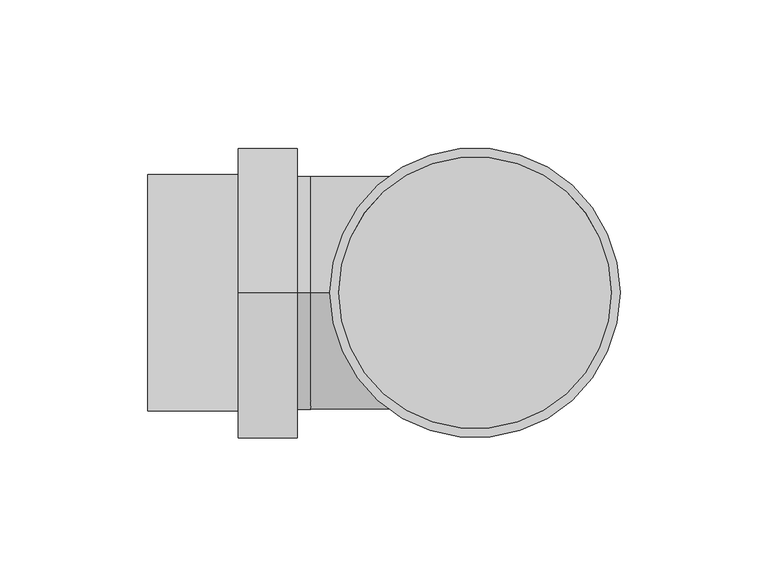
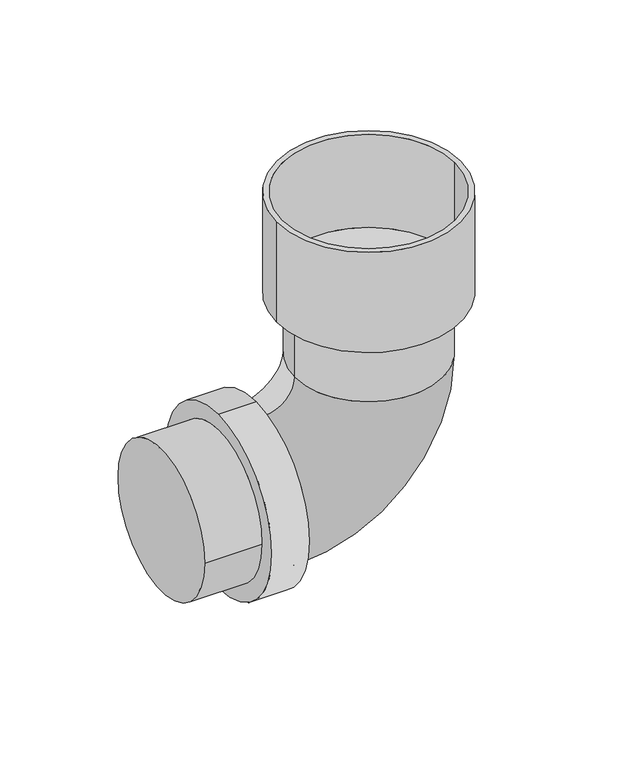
"""IFC4 building model written with IfcOpenShell, lengths in millimetres: duct fitting geometry, NLRS_57_DUF_UN_connection piece round bend_M&G : ø75 ø92."""

from ifc_helpers import new_model, si_unit, point, frame, origin, place, context, project, spatial, polyline, circle_curve, ellipse_curve, trimmed, source, transform, mapped, element, save
from ifc_brep_helpers import plane_surface, cylinder_surface, revolved_surface, advanced_brep


def duct_fitting_394e68cb(model_context):
    return source(origin(), model_context, "Body", "AdvancedBrep", [
        advanced_brep(
        [(-110.5, 40.0, 0.0), (-110.5, -40.0, 0.0), (49.0, 0.0, 90.0), (-49.0, 0.0, 90.0), (-39.5, 0.0, 90.0), (39.5, 0.0, 90.0), (49.0, 0.0, 146.5), (-49.0, 0.0, 146.5), (46.0, 0.0, 146.5), (-46.0, 0.0, 146.5), (-55.5218613, 0.0, 39.5), (-55.5218613, 0.0, -39.5), (39.5, 0.0, 55.5218613), (-39.5, 0.0, 55.5218613), (-80.0, -40.0, 0.0), (-80.0, 40.0, 0.0), (46.0, 0.0, 94.0), (-46.0, 0.0, 94.0), (-60.0, 0.0, 49.0), (-60.0, 0.0, -49.0), (-60.0, 0.0, -39.5), (-60.0, 0.0, 39.5), (-80.0, 0.0, 49.0), (-80.0, 0.0, -49.0)],
        [
            (0, 1, circle_curve(frame((-110.5, 0.0, 0.0), z_axis=(-1.0, 0.0, 0.0), x_axis=(0.0, -1.0, 0.0)), 40.0)),
            (1, 0, circle_curve(frame((-110.5, 0.0, 0.0), z_axis=(-1.0, 0.0, 0.0), x_axis=(0.0, -1.0, 0.0)), 40.0)),
            (2, 3, circle_curve(frame((0.0, 0.0, 90.0), z_axis=(0.0, 0.0, -1.0), x_axis=(-1.0, 0.0, 0.0)), 49.0)),
            (3, 2, circle_curve(frame((0.0, 0.0, 90.0), z_axis=(0.0, 0.0, -1.0), x_axis=(-1.0, 0.0, 0.0)), 49.0)),
            (4, 5, circle_curve(frame((0.0, 0.0, 90.0), z_axis=(0.0, 0.0, 1.0), x_axis=(-1.0, 0.0, 0.0)), 39.5)),
            (5, 4, circle_curve(frame((0.0, 0.0, 90.0), z_axis=(0.0, 0.0, 1.0), x_axis=(-1.0, 0.0, 0.0)), 39.5)),
            (6, 7, circle_curve(frame((0.0, 0.0, 146.5), z_axis=(0.0, 0.0, 1.0), x_axis=(-1.0, 0.0, 0.0)), 49.0)),
            (7, 6, circle_curve(frame((0.0, 0.0, 146.5), z_axis=(0.0, 0.0, 1.0), x_axis=(-1.0, 0.0, 0.0)), 49.0)),
            (8, 9, circle_curve(frame((0.0, 0.0, 146.5), z_axis=(0.0, 0.0, -1.0), x_axis=(-1.0, 0.0, 0.0)), 46.0)),
            (9, 8, circle_curve(frame((0.0, 0.0, 146.5), z_axis=(0.0, 0.0, -1.0), x_axis=(-1.0, 0.0, 0.0)), 46.0)),
            (10, 11, circle_curve(frame((-55.5218613, 0.0, 0.0), z_axis=(1.0, 0.0, 0.0), x_axis=(0.0, 0.0, 1.0)), 39.5)),
            (11, 12, circle_curve(frame((-55.5218613, 0.0, 55.5218613), z_axis=(0.0, -1.0, 0.0), x_axis=(0.0, 0.0, -1.0)), 95.0218613)),
            (12, 13, circle_curve(frame((0.0, 0.0, 55.5218613), z_axis=(0.0, 0.0, -1.0), x_axis=(-1.0, 0.0, 0.0)), 39.5)),
            (13, 10, circle_curve(frame((-55.5218613, 0.0, 55.5218613), z_axis=(0.0, 1.0, 0.0), x_axis=(0.0, 0.0, -1.0)), 16.0218613)),
            (11, 10, circle_curve(frame((-55.5218613, 0.0, 0.0), z_axis=(1.0, 0.0, 0.0), x_axis=(0.0, 0.0, 1.0)), 39.5)),
            (13, 12, circle_curve(frame((0.0, 0.0, 55.5218613), z_axis=(0.0, 0.0, -1.0), x_axis=(-1.0, 0.0, 0.0)), 39.5)),
            (12, 5),
            (4, 13),
            (2, 6),
            (7, 3),
            (1, 14),
            (14, 15, circle_curve(frame((-80.0, 0.0, 0.0), z_axis=(-1.0, 0.0, 0.0), x_axis=(0.0, -1.0, 0.0)), 40.0)),
            (15, 0),
            (15, 14, circle_curve(frame((-80.0, 0.0, 0.0), z_axis=(-1.0, 0.0, 0.0), x_axis=(0.0, -1.0, 0.0)), 40.0)),
            (16, 17, circle_curve(frame((0.0, 0.0, 94.0), z_axis=(0.0, 0.0, 1.0), x_axis=(-1.0, 0.0, 0.0)), 46.0)),
            (17, 16, circle_curve(frame((0.0, 0.0, 94.0), z_axis=(0.0, 0.0, 1.0), x_axis=(-1.0, 0.0, 0.0)), 46.0)),
            (17, 9),
            (8, 16),
            (18, 19, circle_curve(frame((-60.0, 0.0, 0.0), z_axis=(1.0, 0.0, 0.0), x_axis=(0.0, 0.0, -1.0)), 49.0)),
            (19, 18, circle_curve(frame((-60.0, 0.0, 0.0), z_axis=(1.0, 0.0, 0.0), x_axis=(0.0, 0.0, -1.0)), 49.0)),
            (20, 21, circle_curve(frame((-60.0, 0.0, 0.0), z_axis=(-1.0, 0.0, 0.0), x_axis=(0.0, 0.0, 1.0)), 39.5)),
            (21, 20, circle_curve(frame((-60.0, 0.0, 0.0), z_axis=(-1.0, 0.0, 0.0), x_axis=(0.0, 0.0, 1.0)), 39.5)),
            (18, 22),
            (22, 23, circle_curve(frame((-80.0, 0.0, 0.0), z_axis=(1.0, 0.0, 0.0), x_axis=(0.0, 0.0, -1.0)), 49.0)),
            (23, 19),
            (23, 22, circle_curve(frame((-80.0, 0.0, 0.0), z_axis=(1.0, 0.0, 0.0), x_axis=(0.0, 0.0, -1.0)), 49.0)),
            (10, 21),
            (20, 11),
        ],
        [
            plane_surface(frame((-110.5, 0.0, 0.0), z_axis=(-1.0, 0.0, 0.0), x_axis=(0.0, 0.0, 1.0))),
            plane_surface(frame((0.0, 0.0, 90.0), z_axis=(0.0, 0.0, -1.0), x_axis=(0.0, -1.0, 0.0))),
            plane_surface(frame((0.0, 0.0, 146.5), z_axis=(0.0, 0.0, 1.0), x_axis=(0.0, -1.0, 0.0))),
            revolved_surface(trimmed(ellipse_curve(frame((-55.5218613, 0.0, 0.0), z_axis=(-1.0, 0.0, 0.0), x_axis=(0.0, 0.0, 1.0)), 39.5, 39.5), [point((-55.5218613, 0.0, -39.5))], [point((-55.5218613, 0.0, 39.5))], True, "CARTESIAN"), (-55.5218613, 0.0, 55.5218613), (0.0, -1.0, 0.0)),
            revolved_surface(trimmed(ellipse_curve(frame((-55.5218613, 0.0, 0.0), z_axis=(-1.0, 0.0, 0.0), x_axis=(0.0, 0.0, 1.0)), 39.5, 39.5), [point((-55.5218613, 0.0, 39.5))], [point((-55.5218613, 0.0, -39.5))], True, "CARTESIAN"), (-55.5218613, 0.0, 55.5218613), (0.0, -1.0, 0.0)),
            cylinder_surface(frame((0.0, 0.0, 55.5218613), z_axis=(0.0, 0.0, -1.0), x_axis=(-1.0, 0.0, 0.0)), 39.5),
            cylinder_surface(frame((0.0, 0.0, 90.0), z_axis=(0.0, 0.0, -1.0), x_axis=(-1.0, 0.0, 0.0)), 49.0),
            cylinder_surface(frame((-80.0, 0.0, 0.0), z_axis=(1.0, 0.0, 0.0), x_axis=(0.0, -1.0, 0.0)), 40.0),
            plane_surface(frame((0.0, 0.0, 94.0), z_axis=(0.0, 0.0, 1.0), x_axis=(0.0, -1.0, 0.0))),
            revolved_surface(polyline([(-46.0, 0.0, 94.0), (-46.0, 0.0, 146.5)]), (0.0, 0.0, 94.0), (0.0, 0.0, -1.0)),
            plane_surface(frame((-60.0, 0.0, 0.0), z_axis=(1.0, 0.0, 0.0), x_axis=(0.0, -1.0, 0.0))),
            cylinder_surface(frame((-60.0, 0.0, 0.0), z_axis=(1.0, 0.0, 0.0), x_axis=(0.0, 0.0, -1.0)), 49.0),
            cylinder_surface(frame((-80.0, 0.0, 0.0), z_axis=(-1.0, 0.0, 0.0), x_axis=(0.0, 0.0, 1.0)), 39.5),
            plane_surface(frame((-80.0, 0.0, 0.0), z_axis=(-1.0, 0.0, 0.0), x_axis=(0.0, -1.0, 0.0))),
        ],
        [
            (0, [[1, 2]]),
            (1, [[3, 4], [5, 6]]),
            (2, [[7, 8], [9, 10]]),
            (3, [[11, 12, 13, 14]]),
            (4, [[15, -14, 16, -12]]),
            (5, [[-13, 17, -5, 18]]),
            (5, [[-16, -18, -6, -17]]),
            (6, [[-3, 19, -8, 20]]),
            (6, [[-4, -20, -7, -19]]),
            (7, [[-2, 21, 22, 23]]),
            (7, [[-1, -23, 24, -21]]),
            (8, [[25, 26]]),
            (9, [[-26, 27, -9, 28]]),
            (9, [[-25, -28, -10, -27]]),
            (10, [[29, 30], [31, 32]]),
            (11, [[-29, 33, 34, 35]]),
            (11, [[-30, -35, 36, -33]]),
            (12, [[-11, 37, -31, 38]]),
            (12, [[-15, -38, -32, -37]]),
            (13, [[-36, -34], [-22, -24]]),
        ],
    ),
    ])


if __name__ == "__main__":
    model = new_model("IFC4")
    model_context = context("Model", 3, world=origin())
    ifc_project = project(units=[si_unit("LENGTHUNIT", "METRE", prefix="MILLI")], contexts=[model_context])
    site = spatial("IfcSite", under=ifc_project)
    building = spatial("IfcBuilding", under=site)
    placement = place(None, origin())
    duct_fitting_shape = duct_fitting_394e68cb(model_context)
    element("IfcDuctFitting", 1, ObjectType="NLRS_57_DUF_UN_connection piece round bend_M&G : ø75 ø92", at=placement, inside=building, context=model_context, shape_type="MappedRepresentation", body=[
        mapped(duct_fitting_shape, transform((0.0, 0.0, 0.0), x_axis=(1.0, 0.0, 0.0), y_axis=(0.0, 1.0, 0.0), z_axis=(0.0, 0.0, 1.0))),
    ])
    save(model, "model.ifc")
